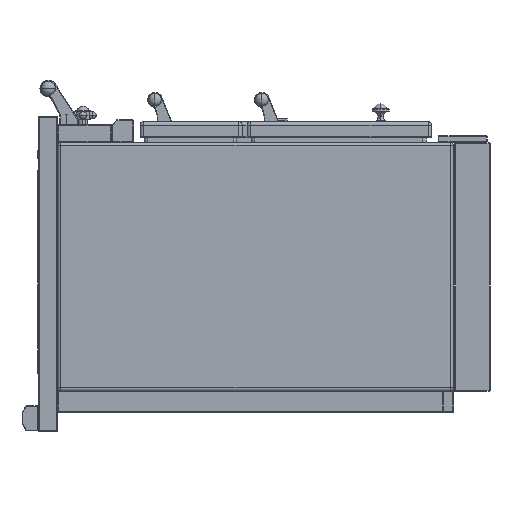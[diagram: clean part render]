
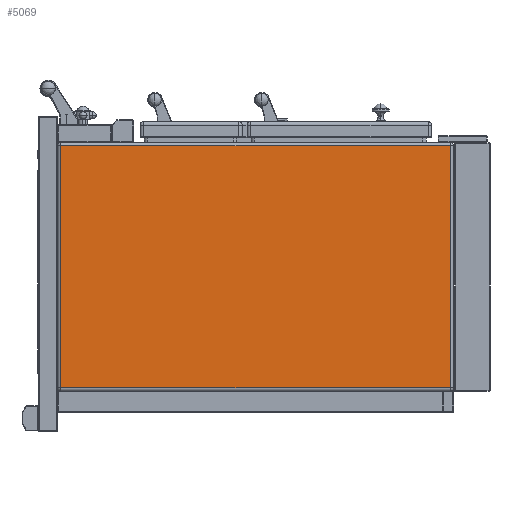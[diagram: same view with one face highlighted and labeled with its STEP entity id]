
A CAD part, left-side view. The second image highlights one B-rep face of the part: STEP entity #5069.
In plain terms, the highlighted planar face has unit normal (-1, 0, 0).
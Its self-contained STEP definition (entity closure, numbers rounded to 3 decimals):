
#1086=DIRECTION('',(0.,1.,0.));
#1087=VECTOR('',#1086,801.);
#1088=CARTESIAN_POINT('',(-700.,82.,249.));
#1089=LINE('',#1088,#1087);
#1090=DIRECTION('',(0.,0.,1.));
#1091=VECTOR('',#1090,498.);
#1092=CARTESIAN_POINT('',(-700.,82.,-249.));
#1093=LINE('',#1092,#1091);
#1094=DIRECTION('',(0.,-1.,0.));
#1095=VECTOR('',#1094,801.);
#1096=CARTESIAN_POINT('',(-700.,883.,-249.));
#1097=LINE('',#1096,#1095);
#1098=DIRECTION('',(0.,0.,-1.));
#1099=VECTOR('',#1098,498.);
#1100=CARTESIAN_POINT('',(-700.,883.,249.));
#1101=LINE('',#1100,#1099);
#2891=CARTESIAN_POINT('',(-700.,82.,249.));
#2892=CARTESIAN_POINT('',(-700.,883.,249.));
#2893=VERTEX_POINT('',#2891);
#2894=VERTEX_POINT('',#2892);
#2895=CARTESIAN_POINT('',(-700.,82.,-249.));
#2896=VERTEX_POINT('',#2895);
#2919=CARTESIAN_POINT('',(-700.,883.,-249.));
#2920=VERTEX_POINT('',#2919);
#5055=CARTESIAN_POINT('',(-700.,0.,0.));
#5056=DIRECTION('',(1.,0.,0.));
#5057=DIRECTION('',(0.,0.,-1.));
#5058=AXIS2_PLACEMENT_3D('',#5055,#5056,#5057);
#5059=PLANE('',#5058);
#5061=ORIENTED_EDGE('',*,*,#5060,.F.);
#5063=ORIENTED_EDGE('',*,*,#5062,.F.);
#5064=ORIENTED_EDGE('',*,*,#5039,.F.);
#5066=ORIENTED_EDGE('',*,*,#5065,.F.);
#5067=EDGE_LOOP('',(#5061,#5063,#5064,#5066));
#5068=FACE_OUTER_BOUND('',#5067,.F.);
#5039=EDGE_CURVE('',#2920,#2896,#1097,.T.);
#5060=EDGE_CURVE('',#2893,#2894,#1089,.T.);
#5062=EDGE_CURVE('',#2896,#2893,#1093,.T.);
#5065=EDGE_CURVE('',#2894,#2920,#1101,.T.);
#5069=ADVANCED_FACE('',(#5068),#5059,.F.);
